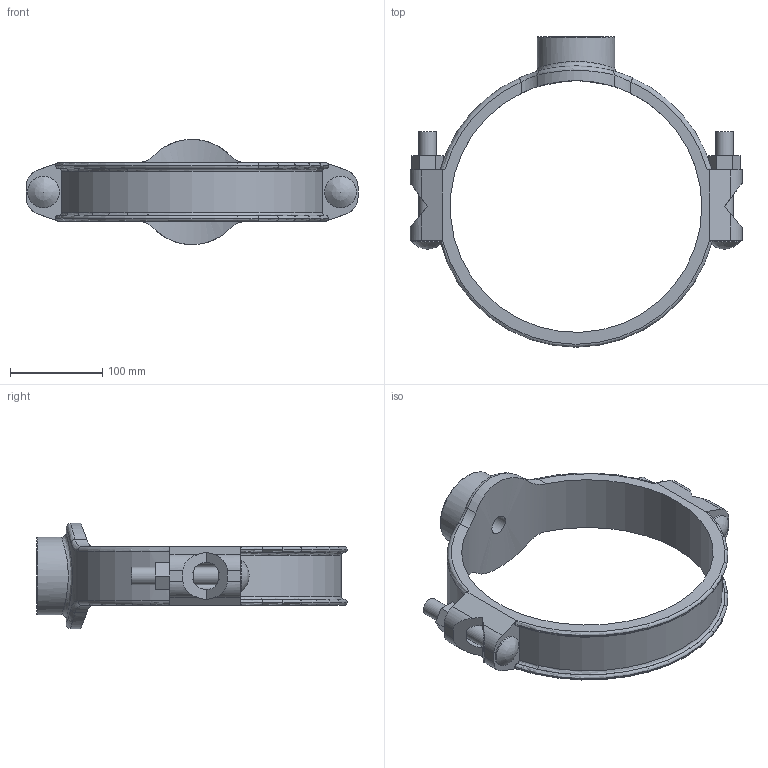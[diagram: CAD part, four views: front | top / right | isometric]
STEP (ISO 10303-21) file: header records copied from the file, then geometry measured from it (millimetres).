
FILE_DESCRIPTION(/* description */ ('VIC SS MECHANICAL T BRANCH OUTLET STYLE 422 (BSPP)','CAx-IF Rec.Pracs.---Representation and Presentation of Product Manufacturing Information (PMI)---4.0---2014-10-13'),/* implementation_level */ '2;1');
FILE_NAME(/* name */ 'C:\Files for Export\422\STEP\Victaulic_SS-OGS_Mech-Tee Out_Style 422 (BSPP)\Victaulic_SS-OGS_Mech-Tee Out_Style 422 (BSPP)_10.0x0.75 (250x20).stp',/* time_stamp */ '2023-03-28T14:25:15+02:00',/* author */ ('jheald'),/* organization */ ('Victaulic'),/* preprocessor_version */ 'ST-DEVELOPER v18.1',/* originating_system */ 'Autodesk Inventor 2020',/* authorisation */ '');
FILE_SCHEMA (('AP242_MANAGED_MODEL_BASED_3D_ENGINEERING_MIM_LF { 1 0 10303 442 1 1 4 }'));
Length unit declared in the file: inch
Products named in the file (1): 422-10.0x0.75
Bounding box: 360.17 x 336.55 x 114.24 mm (x, y, z)
Volume: 1199543.8 mm3; surface area: 200629.7 mm2
Topology: 1 solids, 1 shells, 106 faces, 308 edges, 204 vertices
Faces by surface type: plane 52, cylinder 34, torus 11, bspline 9
Full cylindrical faces by diameter (mm): 19.05 x4, 20.93 x1, 26.67 x1, 34.29 x2, 84.074 x1, 273.05 x1
Entity records: 4572 total; most frequent: CARTESIAN_POINT 1554, ORIENTED_EDGE 612, DIRECTION 584, EDGE_CURVE 306, AXIS2_PLACEMENT_3D 214, VERTEX_POINT 204, LINE 156, VECTOR 156
